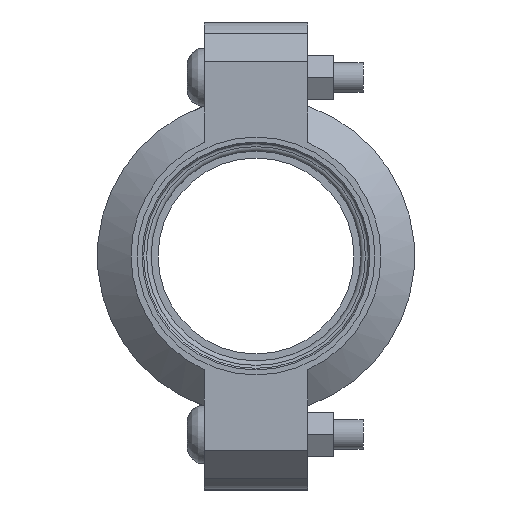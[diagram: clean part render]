
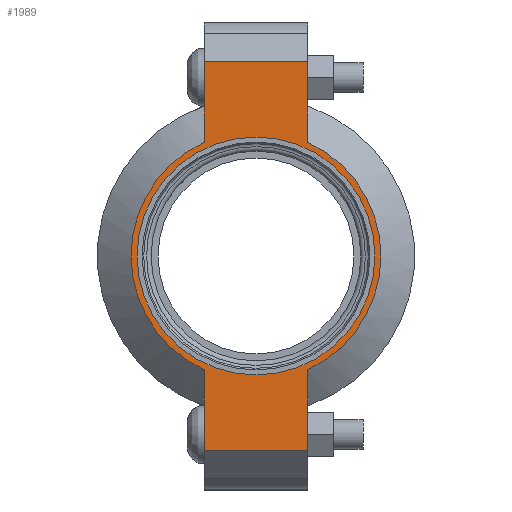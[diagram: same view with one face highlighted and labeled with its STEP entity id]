
A CAD part, left-side view. The second image highlights one B-rep face of the part: STEP entity #1989.
In plain terms, the highlighted planar face has unit normal (-1, 0, 0) as drawn and (0, 0, 1) by its records, which use the part's own axes.
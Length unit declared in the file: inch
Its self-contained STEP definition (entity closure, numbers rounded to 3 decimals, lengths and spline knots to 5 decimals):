
#160=LINE('',#3539,#259);
#173=LINE('',#3583,#272);
#178=LINE('',#3607,#277);
#185=LINE('',#3625,#284);
#192=LINE('',#3650,#291);
#193=LINE('',#3653,#292);
#259=VECTOR('',#2857,0.3937);
#272=VECTOR('',#2886,0.3937);
#277=VECTOR('',#2897,0.3937);
#284=VECTOR('',#2914,0.3937);
#291=VECTOR('',#2935,0.3937);
#292=VECTOR('',#2940,0.3937);
#344=FACE_BOUND('',#594,.T.);
#388=PLANE('',#2330);
#477=FACE_OUTER_BOUND('',#593,.T.);
#593=EDGE_LOOP('',(#1724,#1725,#1726,#1727,#1728,#1729,#1730,#1731));
#594=EDGE_LOOP('',(#1732));
#765=CIRCLE('',#2331,1.575);
#766=CIRCLE('',#2332,1.575);
#767=CIRCLE('',#2333,1.5);
#927=VERTEX_POINT('',#3534);
#928=VERTEX_POINT('',#3538);
#944=VERTEX_POINT('',#3580);
#945=VERTEX_POINT('',#3582);
#951=VERTEX_POINT('',#3602);
#952=VERTEX_POINT('',#3606);
#957=VERTEX_POINT('',#3622);
#958=VERTEX_POINT('',#3624);
#964=VERTEX_POINT('',#3655);
#1175=EDGE_CURVE('',#928,#927,#160,.T.);
#1195=EDGE_CURVE('',#945,#944,#173,.T.);
#1204=EDGE_CURVE('',#952,#951,#178,.T.);
#1213=EDGE_CURVE('',#958,#957,#185,.T.);
#1225=EDGE_CURVE('',#952,#944,#192,.T.);
#1226=EDGE_CURVE('',#951,#958,#765,.T.);
#1227=EDGE_CURVE('',#928,#957,#193,.T.);
#1228=EDGE_CURVE('',#927,#945,#766,.T.);
#1229=EDGE_CURVE('',#964,#964,#767,.T.);
#1724=ORIENTED_EDGE('',*,*,#1225,.F.);
#1725=ORIENTED_EDGE('',*,*,#1204,.T.);
#1726=ORIENTED_EDGE('',*,*,#1226,.T.);
#1727=ORIENTED_EDGE('',*,*,#1213,.T.);
#1728=ORIENTED_EDGE('',*,*,#1227,.F.);
#1729=ORIENTED_EDGE('',*,*,#1175,.T.);
#1730=ORIENTED_EDGE('',*,*,#1228,.T.);
#1731=ORIENTED_EDGE('',*,*,#1195,.T.);
#1732=ORIENTED_EDGE('',*,*,#1229,.T.);
#1989=ADVANCED_FACE('',(#477,#344),#388,.T.);
#2330=AXIS2_PLACEMENT_3D('',#3651,#2936,#2937);
#2331=AXIS2_PLACEMENT_3D('',#3652,#2938,#2939);
#2332=AXIS2_PLACEMENT_3D('',#3654,#2941,#2942);
#2333=AXIS2_PLACEMENT_3D('',#3656,#2943,#2944);
#2857=DIRECTION('',(1.,0.,0.));
#2886=DIRECTION('',(1.,0.,0.));
#2897=DIRECTION('',(-1.,0.,0.));
#2914=DIRECTION('',(-1.,0.,0.));
#2935=DIRECTION('',(0.,-1.,0.));
#2936=DIRECTION('center_axis',(0.,0.,1.));
#2937=DIRECTION('ref_axis',(-1.,0.,0.));
#2938=DIRECTION('center_axis',(0.,0.,1.));
#2939=DIRECTION('ref_axis',(1.,0.,0.));
#2940=DIRECTION('',(0.,1.,0.));
#2941=DIRECTION('center_axis',(0.,0.,1.));
#2942=DIRECTION('ref_axis',(1.,0.,0.));
#2943=DIRECTION('center_axis',(0.,0.,-1.));
#2944=DIRECTION('ref_axis',(1.,0.,0.));
#3534=CARTESIAN_POINT('',(-1.43462,-0.65,0.94));
#3538=CARTESIAN_POINT('',(-2.45,-0.65,0.94));
#3539=CARTESIAN_POINT('',(2.95,-0.65,0.94));
#3580=CARTESIAN_POINT('',(2.45,-0.65,0.94));
#3582=CARTESIAN_POINT('',(1.43462,-0.65,0.94));
#3583=CARTESIAN_POINT('',(2.95,-0.65,0.94));
#3602=CARTESIAN_POINT('',(1.43462,0.65,0.94));
#3606=CARTESIAN_POINT('',(2.45,0.65,0.94));
#3607=CARTESIAN_POINT('',(-2.95,0.65,0.94));
#3622=CARTESIAN_POINT('',(-2.45,0.65,0.94));
#3624=CARTESIAN_POINT('',(-1.43462,0.65,0.94));
#3625=CARTESIAN_POINT('',(-2.95,0.65,0.94));
#3650=CARTESIAN_POINT('',(2.45,-0.325,0.94));
#3651=CARTESIAN_POINT('Origin',(0.,0.,
0.94));
#3652=CARTESIAN_POINT('Origin',(0.,0.,0.94));
#3653=CARTESIAN_POINT('',(-2.45,0.325,0.94));
#3654=CARTESIAN_POINT('Origin',(0.,0.,0.94));
#3655=CARTESIAN_POINT('',(-1.5,0.,0.94));
#3656=CARTESIAN_POINT('Origin',(0.,0.,0.94));
